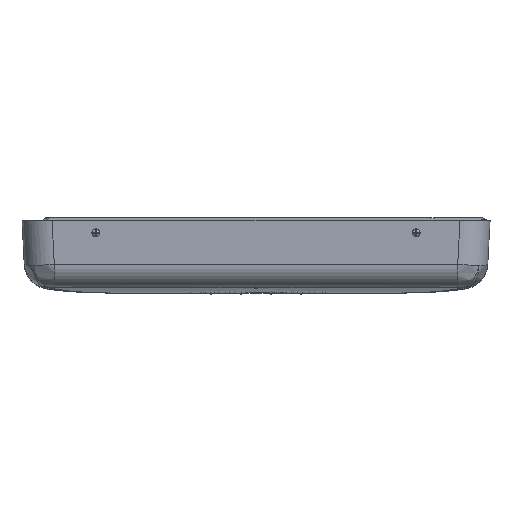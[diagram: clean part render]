
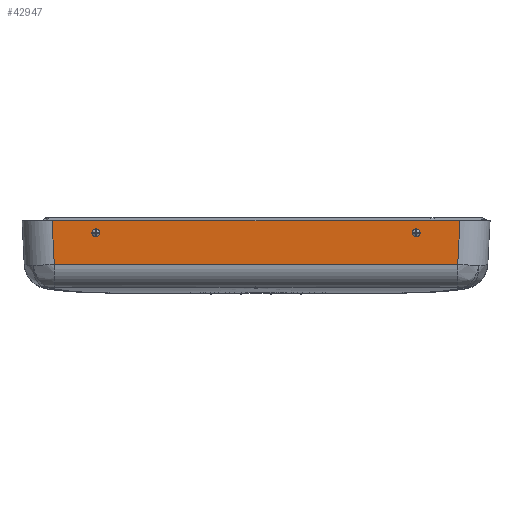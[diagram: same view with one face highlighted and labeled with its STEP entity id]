
A CAD part, top view. The second image highlights one B-rep face of the part: STEP entity #42947.
In plain terms, the highlighted planar face has unit normal (0, -0.052, 0.999).
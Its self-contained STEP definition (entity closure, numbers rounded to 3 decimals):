
#1468 = FACE_BOUND ( 'NONE', #5627, .T. ) ;
#1838 = DIRECTION ( 'NONE',  ( 0.052, 0.997, 0.052 ) ) ;
#2322 = AXIS2_PLACEMENT_3D ( 'NONE', #56927, #57115, #29040 ) ;
#4209 = LINE ( 'NONE', #59823, #52932 ) ;
#5627 = EDGE_LOOP ( 'NONE', ( #15093, #28935 ) ) ;
#7344 = VERTEX_POINT ( 'NONE', #58091 ) ;
#7488 = EDGE_CURVE ( 'NONE', #47909, #60433, #34288, .T. ) ;
#7759 = CARTESIAN_POINT ( 'NONE',  ( 201.515, 28.12, 231.474 ) ) ;
#8048 = EDGE_CURVE ( 'NONE', #44356, #7344, #14901, .T. ) ;
#11032 = DIRECTION ( 'NONE',  ( 1., 0., 0. ) ) ;
#11553 = DIRECTION ( 'NONE',  ( 0., -0.052, 0.999 ) ) ;
#11619 = CARTESIAN_POINT ( 'NONE',  ( -160., 59.867, 233.137 ) ) ;
#11688 = CARTESIAN_POINT ( 'NONE',  ( -160., 59.867, 233.137 ) ) ;
#12735 = EDGE_CURVE ( 'NONE', #60433, #52004, #33274, .T. ) ;
#14901 = CIRCLE ( 'NONE', #21215, 2.4 ) ;
#14966 = EDGE_LOOP ( 'NONE', ( #57864, #17809, #21530, #60589 ) ) ;
#15093 = ORIENTED_EDGE ( 'NONE', *, *, #8048, .F. ) ;
#16398 = DIRECTION ( 'NONE',  ( 0., -0.999, -0.052 ) ) ;
#16455 = DIRECTION ( 'NONE',  ( 0., -0.999, -0.052 ) ) ;
#17809 = ORIENTED_EDGE ( 'NONE', *, *, #12735, .T. ) ;
#18274 = CARTESIAN_POINT ( 'NONE',  ( -160., 62.263, 233.263 ) ) ;
#19645 = AXIS2_PLACEMENT_3D ( 'NONE', #11688, #44830, #16455 ) ;
#19744 = AXIS2_PLACEMENT_3D ( 'NONE', #40019, #11553, #44703 ) ;
#19888 = VERTEX_POINT ( 'NONE', #49670 ) ;
#20108 = VECTOR ( 'NONE', #26934, 1000. ) ;
#20562 = VECTOR ( 'NONE', #11032, 1000. ) ;
#21215 = AXIS2_PLACEMENT_3D ( 'NONE', #60468, #60667, #60675 ) ;
#21530 = ORIENTED_EDGE ( 'NONE', *, *, #48742, .T. ) ;
#21695 = VECTOR ( 'NONE', #1838, 1000. ) ;
#22172 = EDGE_CURVE ( 'NONE', #47909, #19888, #4209, .T. ) ;
#23222 = CARTESIAN_POINT ( 'NONE',  ( 160., 57.47, 233.012 ) ) ;
#23412 = CARTESIAN_POINT ( 'NONE',  ( -200.123, 1.562, 230.082 ) ) ;
#23735 = FACE_OUTER_BOUND ( 'NONE', #14966, .T. ) ;
#24543 = AXIS2_PLACEMENT_3D ( 'NONE', #11619, #44769, #16398 ) ;
#26934 = DIRECTION ( 'NONE',  ( 0.052, -0.997, -0.052 ) ) ;
#28935 = ORIENTED_EDGE ( 'NONE', *, *, #53932, .F. ) ;
#29040 = DIRECTION ( 'NONE',  ( 0., -0.999, -0.052 ) ) ;
#30324 = CIRCLE ( 'NONE', #19744, 2.4 ) ;
#32781 = CARTESIAN_POINT ( 'NONE',  ( -160., 57.47, 233.012 ) ) ;
#33274 = LINE ( 'NONE', #42624, #20562 ) ;
#34288 = LINE ( 'NONE', #23412, #20108 ) ;
#34918 = FACE_BOUND ( 'NONE', #38162, .T. ) ;
#36620 = DIRECTION ( 'NONE',  ( 1., 0., 0. ) ) ;
#38162 = EDGE_LOOP ( 'NONE', ( #47852, #53936 ) ) ;
#38731 = EDGE_CURVE ( 'NONE', #60319, #59591, #52006, .T. ) ;
#40019 = CARTESIAN_POINT ( 'NONE',  ( 160., 59.867, 233.137 ) ) ;
#40507 = CARTESIAN_POINT ( 'NONE',  ( -201.515, 28.12, 231.474 ) ) ;
#42624 = CARTESIAN_POINT ( 'NONE',  ( -230., 28.12, 231.474 ) ) ;
#42947 = ADVANCED_FACE ( 'NONE', ( #34918, #1468, #23735 ), #43177, .T. ) ;
#43153 = EDGE_CURVE ( 'NONE', #59591, #60319, #53937, .T. ) ;
#43177 = PLANE ( 'NONE',  #2322 ) ;
#44356 = VERTEX_POINT ( 'NONE', #23222 ) ;
#44703 = DIRECTION ( 'NONE',  ( 0., -0.999, -0.052 ) ) ;
#44769 = DIRECTION ( 'NONE',  ( 0., -0.052, 0.999 ) ) ;
#44830 = DIRECTION ( 'NONE',  ( 0., -0.052, 0.999 ) ) ;
#47852 = ORIENTED_EDGE ( 'NONE', *, *, #43153, .F. ) ;
#47909 = VERTEX_POINT ( 'NONE', #58090 ) ;
#48742 = EDGE_CURVE ( 'NONE', #52004, #19888, #59192, .T. ) ;
#49670 = CARTESIAN_POINT ( 'NONE',  ( 203.814, 72., 233.773 ) ) ;
#52004 = VERTEX_POINT ( 'NONE', #7759 ) ;
#52006 = CIRCLE ( 'NONE', #19645, 2.4 ) ;
#52932 = VECTOR ( 'NONE', #36620, 1000. ) ;
#53679 = CARTESIAN_POINT ( 'NONE',  ( 198.866, -22.414, 228.825 ) ) ;
#53932 = EDGE_CURVE ( 'NONE', #7344, #44356, #30324, .T. ) ;
#53936 = ORIENTED_EDGE ( 'NONE', *, *, #38731, .F. ) ;
#53937 = CIRCLE ( 'NONE', #24543, 2.4 ) ;
#56927 = CARTESIAN_POINT ( 'NONE',  ( -230., 0., 230. ) ) ;
#57115 = DIRECTION ( 'NONE',  ( 0., -0.052, 0.999 ) ) ;
#57864 = ORIENTED_EDGE ( 'NONE', *, *, #7488, .T. ) ;
#58090 = CARTESIAN_POINT ( 'NONE',  ( -203.814, 72., 233.773 ) ) ;
#58091 = CARTESIAN_POINT ( 'NONE',  ( 160., 62.263, 233.263 ) ) ;
#59192 = LINE ( 'NONE', #53679, #21695 ) ;
#59591 = VERTEX_POINT ( 'NONE', #32781 ) ;
#59823 = CARTESIAN_POINT ( 'NONE',  ( 230., 72., 233.773 ) ) ;
#60319 = VERTEX_POINT ( 'NONE', #18274 ) ;
#60433 = VERTEX_POINT ( 'NONE', #40507 ) ;
#60468 = CARTESIAN_POINT ( 'NONE',  ( 160., 59.867, 233.137 ) ) ;
#60589 = ORIENTED_EDGE ( 'NONE', *, *, #22172, .F. ) ;
#60667 = DIRECTION ( 'NONE',  ( 0., -0.052, 0.999 ) ) ;
#60675 = DIRECTION ( 'NONE',  ( 0., -0.999, -0.052 ) ) ;
